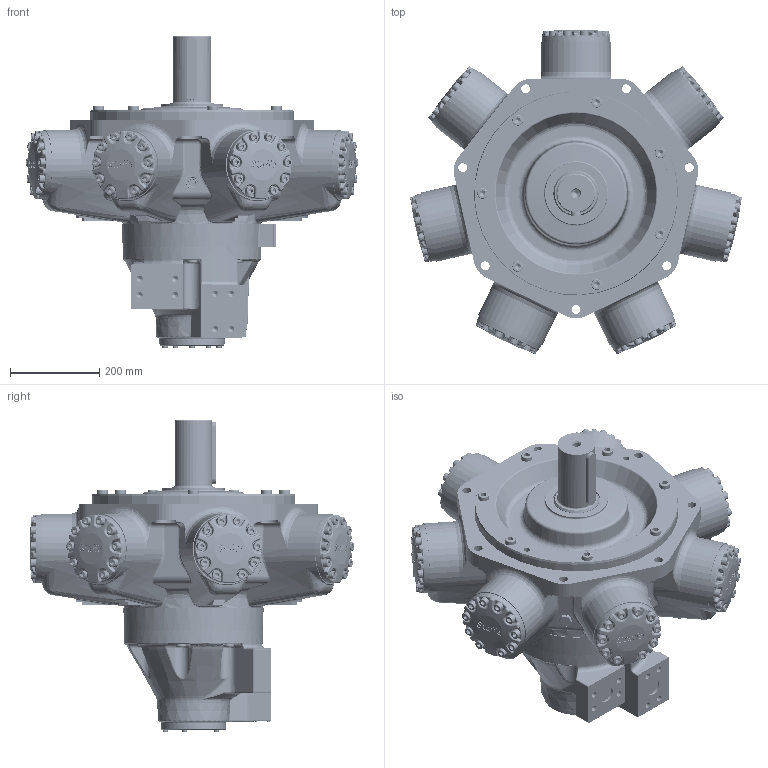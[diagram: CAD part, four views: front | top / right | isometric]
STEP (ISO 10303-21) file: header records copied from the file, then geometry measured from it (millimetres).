
FILE_DESCRIPTION(/* description */ (''),/* implementation_level */ '2;1');
FILE_NAME(/* name */ 'HMC325_P1_FM4_X.stp',/* time_stamp */ '2025-06-12T11:38:32+01:00',/* author */ ('ccallanga'),/* organization */ (''),/* preprocessor_version */ 'ST-DEVELOPER v20',/* originating_system */ 'Autodesk Inventor 2024',/* authorisation */ '');
FILE_SCHEMA (('AUTOMOTIVE_DESIGN { 1 0 10303 214 3 1 1 }'));
Products named in the file (1): 017753 HMC325 Web Assembly_Simplify_1
Bounding box: 744.35 x 728.18 x 698.32 mm (x, y, z)
Volume: 76408130.9 mm3; surface area: 1762293.3 mm2
Topology: 1 solids, 1 shells, 6035 faces, 14576 edges, 8569 vertices
Faces by surface type: bspline 2360, plane 1622, cylinder 1229, torus 505, sphere 164, cone 155
Full cylindrical faces by diameter (mm): 5 x4, 11.445 x2, 11.913 x5, 12.7 x5, 13.843 x8, 14.351 x2, 16.51 x1, 17.323 x1, 19.05 x70, 20 x7, 20.637 x70, 23.825 x14, 25.4 x14, 26.92 x2, 38.1 x5, 85.001 x1, 101.575 x1, 106.68 x1, 139.7 x1, 146 x1, 146.05 x1, 311 x1, 311.15 x1, 457.11 x1
Entity records: 269817 total; most frequent: CARTESIAN_POINT 141235, ORIENTED_EDGE 28586, DIRECTION 20198, EDGE_CURVE 14293, VERTEX_POINT 8569, AXIS2_PLACEMENT_3D 7859, EDGE_LOOP 6360, STYLED_ITEM 6036
